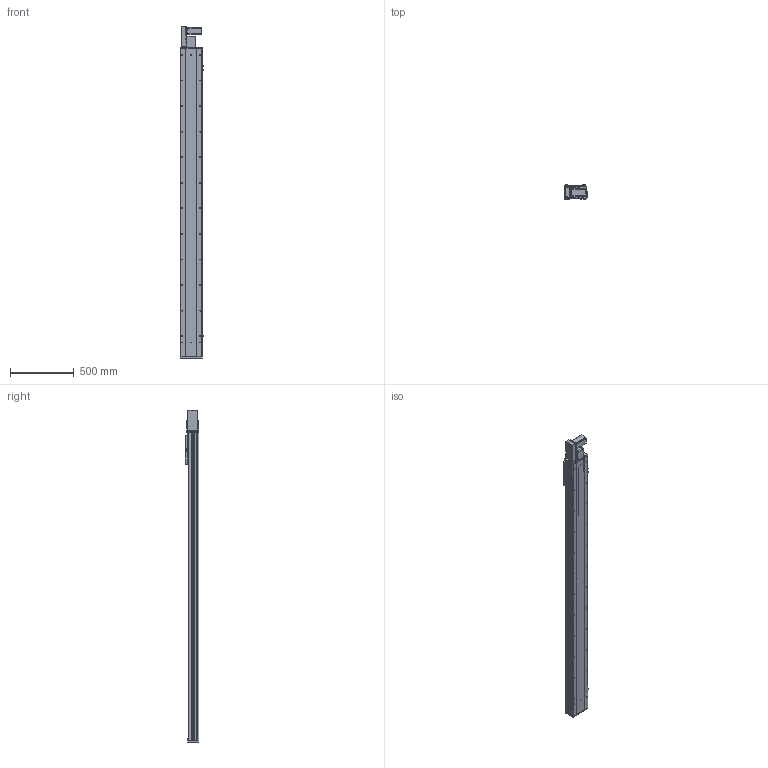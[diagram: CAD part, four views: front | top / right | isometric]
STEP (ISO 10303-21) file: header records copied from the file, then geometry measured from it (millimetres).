
FILE_DESCRIPTION (( 'STEP AP203' ), '1' );
FILE_NAME ('Y170CB-D105-S2100-BL-P400W.STEP', '2020-02-20T01:39:21', ( '微软用户' ), ( '微软中国' ), 'SwSTEP 2.0', 'SolidWorks 2017', '' );
FILE_SCHEMA (( 'CONFIG_CONTROL_DESIGN' ));
Length unit declared in the file: millimetre
Products named in the file (18): Y170CB-陔俋离換覜結え---; --70CB --喘謫眊楊擘啣-; 70B喘謫眊----; 70CB-耜裔啣-; Y1埴倛裔; 70C--詩湍揤踡え-; B-源倛裔啣; Y170CB-D105-S2100-BL-P400W; 70CB--耜裔; 17B-耜蚾蟀諉啣----; 70C-雄赽釱-奻-; 0B-萇儂楊擘啣; 0C--雄赽釱俋欶-170; san松下电机400不带刹车----; 70CB-詩湍--; Y70俋欶BR----; Y100-135俋离換覜ん--; 70CB-掛极-
Assembly tree (21 placements, depth 2):
  Y170CB-D105-S2100-BL-P400W
    B-源倛裔啣
    17B-耜蚾蟀諉啣----
    0B-萇儂楊擘啣
    san松下电机400不带刹车----
    Y70俋欶BR----
    70CB-掛极-
    --70CB --喘謫眊楊擘啣-
    70CB-耜裔啣-  x2
    70C--詩湍揤踡え-  x2
    70CB--耜裔
    70C-雄赽釱-奻-
    0C--雄赽釱俋欶-170
    70CB-詩湍--
    Y100-135俋离換覜ん--  x3
    Y170CB-陔俋离換覜結え---
    70B喘謫眊----
    Y1埴倛裔
Bounding box: 183.5 x 107 x 2597 mm (x, y, z)
Volume: 10868057.8 mm3; surface area: 3918390.1 mm2
Topology: 21 solids, 21 shells, 1055 faces, 2837 edges, 1882 vertices
Faces by surface type: cylinder 567, plane 464, cone 24
Entity records: 33780 total; most frequent: CARTESIAN_POINT 6216, DIRECTION 5494, ORIENTED_EDGE 5156, EDGE_CURVE 2578, AXIS2_PLACEMENT_3D 2024, VERTEX_POINT 1712, VECTOR 1446, LINE 1446
